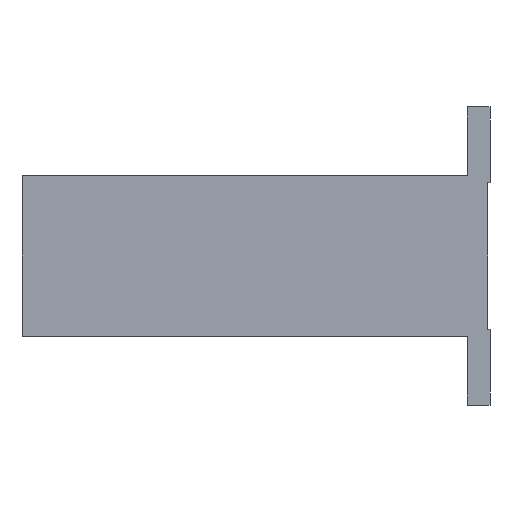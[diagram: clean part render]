
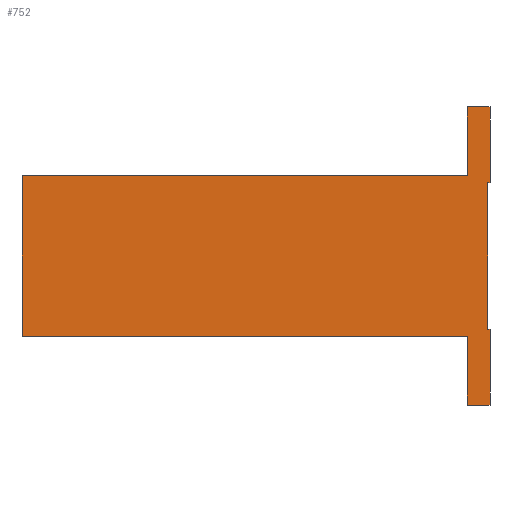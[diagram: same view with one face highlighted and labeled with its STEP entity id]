
A CAD part, front view. The second image highlights one B-rep face of the part: STEP entity #752.
In plain terms, the highlighted planar face has unit normal (0, -1, 0).
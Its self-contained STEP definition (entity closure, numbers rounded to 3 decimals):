
#37=PLANE('',#818);
#46=LINE('',#1066,#121);
#48=LINE('',#1072,#123);
#51=LINE('',#1077,#126);
#70=LINE('',#1124,#145);
#82=LINE('',#1170,#157);
#84=LINE('',#1174,#159);
#85=LINE('',#1177,#160);
#87=LINE('',#1181,#162);
#109=LINE('',#1235,#184);
#111=LINE('',#1239,#186);
#112=LINE('',#1242,#187);
#113=LINE('',#1243,#188);
#121=VECTOR('',#849,0.5);
#123=VECTOR('',#853,0.5);
#126=VECTOR('',#858,32.);
#145=VECTOR('',#891,16.5);
#157=VECTOR('',#939,5.);
#159=VECTOR('',#943,15.);
#160=VECTOR('',#946,5.);
#162=VECTOR('',#950,15.);
#184=VECTOR('',#1012,16.5);
#186=VECTOR('',#1016,97.);
#187=VECTOR('',#1019,35.);
#188=VECTOR('',#1020,97.);
#243=FACE_OUTER_BOUND('',#297,.T.);
#297=EDGE_LOOP('',(#683,#684,#685,#686,#687,#688,#689,#690,#691,#692,#693,
#694));
#337=VERTEX_POINT('',#1060);
#339=VERTEX_POINT('',#1064);
#340=VERTEX_POINT('',#1068);
#342=VERTEX_POINT('',#1071);
#364=VERTEX_POINT('',#1123);
#379=VERTEX_POINT('',#1166);
#380=VERTEX_POINT('',#1168);
#381=VERTEX_POINT('',#1172);
#382=VERTEX_POINT('',#1176);
#383=VERTEX_POINT('',#1180);
#396=VERTEX_POINT('',#1237);
#397=VERTEX_POINT('',#1241);
#411=EDGE_CURVE('',#337,#339,#46,.T.);
#413=EDGE_CURVE('',#342,#340,#48,.T.);
#416=EDGE_CURVE('',#339,#342,#51,.T.);
#440=EDGE_CURVE('',#364,#337,#70,.T.);
#462=EDGE_CURVE('',#379,#380,#82,.T.);
#464=EDGE_CURVE('',#381,#380,#84,.T.);
#465=EDGE_CURVE('',#364,#382,#85,.T.);
#467=EDGE_CURVE('',#382,#383,#87,.T.);
#494=EDGE_CURVE('',#340,#379,#109,.T.);
#496=EDGE_CURVE('',#381,#396,#111,.T.);
#497=EDGE_CURVE('',#396,#397,#112,.T.);
#498=EDGE_CURVE('',#397,#383,#113,.T.);
#683=ORIENTED_EDGE('',*,*,#413,.T.);
#684=ORIENTED_EDGE('',*,*,#494,.T.);
#685=ORIENTED_EDGE('',*,*,#462,.T.);
#686=ORIENTED_EDGE('',*,*,#464,.F.);
#687=ORIENTED_EDGE('',*,*,#496,.T.);
#688=ORIENTED_EDGE('',*,*,#497,.T.);
#689=ORIENTED_EDGE('',*,*,#498,.T.);
#690=ORIENTED_EDGE('',*,*,#467,.F.);
#691=ORIENTED_EDGE('',*,*,#465,.F.);
#692=ORIENTED_EDGE('',*,*,#440,.T.);
#693=ORIENTED_EDGE('',*,*,#411,.T.);
#694=ORIENTED_EDGE('',*,*,#416,.T.);
#752=ADVANCED_FACE('',(#243),#37,.T.);
#818=AXIS2_PLACEMENT_3D('',#1240,#1017,#1018);
#849=DIRECTION('',(-1.,0.,0.));
#853=DIRECTION('',(1.,0.,0.));
#858=DIRECTION('',(0.,0.,1.));
#891=DIRECTION('',(0.,0.,1.));
#939=DIRECTION('',(-1.,0.,0.));
#943=DIRECTION('',(0.,0.,1.));
#946=DIRECTION('',(-1.,0.,0.));
#950=DIRECTION('',(0.,0.,1.));
#1012=DIRECTION('',(0.,0.,1.));
#1016=DIRECTION('',(-1.,0.,0.));
#1017=DIRECTION('center_axis',(0.,-1.,0.));
#1018=DIRECTION('ref_axis',(0.,0.,-1.));
#1019=DIRECTION('',(0.,0.,-1.));
#1020=DIRECTION('',(1.,0.,0.));
#1060=CARTESIAN_POINT('',(51.,-17.5,-16.));
#1064=CARTESIAN_POINT('',(50.5,-17.5,-16.));
#1066=CARTESIAN_POINT('',(21.855,-17.5,-16.));
#1068=CARTESIAN_POINT('',(51.,-17.5,16.));
#1071=CARTESIAN_POINT('',(50.5,-17.5,16.));
#1072=CARTESIAN_POINT('',(21.855,-17.5,16.));
#1077=CARTESIAN_POINT('',(50.5,-17.5,-3.645));
#1123=CARTESIAN_POINT('',(51.,-17.5,-32.5));
#1124=CARTESIAN_POINT('',(51.,-17.5,-32.5));
#1166=CARTESIAN_POINT('',(51.,-17.5,32.5));
#1168=CARTESIAN_POINT('',(46.,-17.5,32.5));
#1170=CARTESIAN_POINT('',(51.,-17.5,32.5));
#1172=CARTESIAN_POINT('',(46.,-17.5,17.5));
#1174=CARTESIAN_POINT('',(46.,-17.5,17.5));
#1176=CARTESIAN_POINT('',(46.,-17.5,-32.5));
#1177=CARTESIAN_POINT('',(51.,-17.5,-32.5));
#1180=CARTESIAN_POINT('',(46.,-17.5,-17.5));
#1181=CARTESIAN_POINT('',(46.,-17.5,-32.5));
#1235=CARTESIAN_POINT('',(51.,-17.5,-32.5));
#1237=CARTESIAN_POINT('',(-51.,-17.5,17.5));
#1239=CARTESIAN_POINT('',(-51.,-17.5,17.5));
#1240=CARTESIAN_POINT('Origin',(-7.291,-17.5,-7.291));
#1241=CARTESIAN_POINT('',(-51.,-17.5,-17.5));
#1242=CARTESIAN_POINT('',(-51.,-17.5,-17.5));
#1243=CARTESIAN_POINT('',(51.,-17.5,-17.5));
